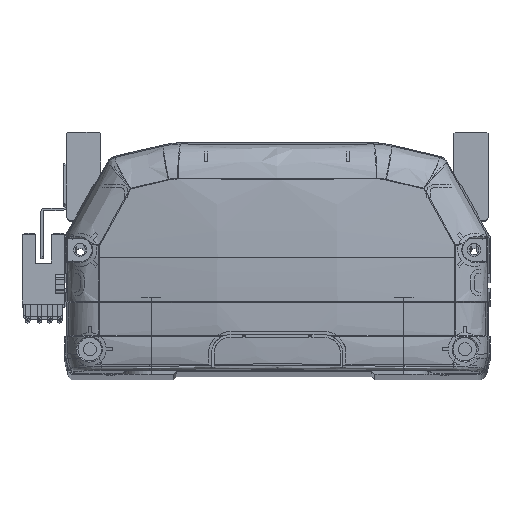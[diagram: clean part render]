
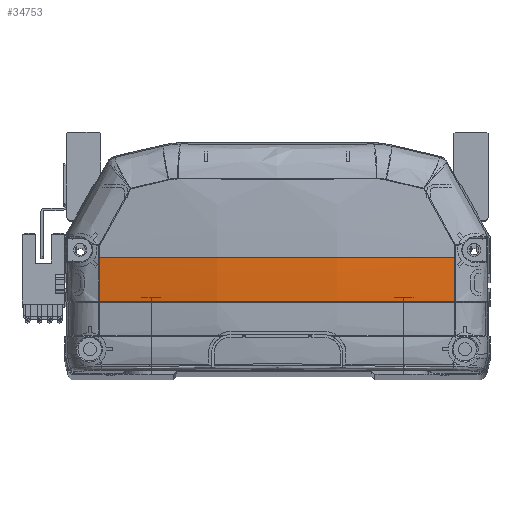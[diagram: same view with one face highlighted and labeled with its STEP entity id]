
A CAD part, top view. The second image highlights one B-rep face of the part: STEP entity #34753.
In plain terms, the highlighted free-form (B-spline) face has degree [3, 3] with [4, 4] control points.
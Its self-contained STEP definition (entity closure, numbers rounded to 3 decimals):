
#1463 = ORIENTED_EDGE ( 'NONE', *, *, #16261, .F. ) ;
#2425 = CARTESIAN_POINT ( 'NONE',  ( 4.761, 22.225, -9.537 ) ) ;
#2475 = CARTESIAN_POINT ( 'NONE',  ( -57.335, 22.148, -4.7 ) ) ;
#2813 =( BOUNDED_SURFACE ( )  B_SPLINE_SURFACE ( 3, 3, ( 
 ( #23044, #15562, #34158, #44599 ),
 ( #30332, #19526, #44918, #23192 ),
 ( #5163, #45874, #27152, #9112 ),
 ( #2475, #16195, #19992, #27803 ) ),
 .UNSPECIFIED., .F., .F., .F. ) 
 B_SPLINE_SURFACE_WITH_KNOTS ( ( 4, 4 ),
 ( 4, 4 ),
 ( 0., 1. ),
 ( 0., 1. ),
 .UNSPECIFIED. ) 
 GEOMETRIC_REPRESENTATION_ITEM ( )  RATIONAL_B_SPLINE_SURFACE ( (
 ( 1., 1., 1., 1.),
 ( 0.99, 0.99, 0.99, 0.99),
 ( 0.99, 0.99, 0.99, 0.99),
 ( 1., 1., 1., 1.) ) ) 
 REPRESENTATION_ITEM ( '' )  SURFACE ( )  );
#3049 = CARTESIAN_POINT ( 'NONE',  ( 2.357, 22.225, -9.562 ) ) ;
#3416 = CARTESIAN_POINT ( 'NONE',  ( -56.647, 36., -5.158 ) ) ;
#4324 = CARTESIAN_POINT ( 'NONE',  ( 56.647, 31.387, -5.158 ) ) ;
#5163 = CARTESIAN_POINT ( 'NONE',  ( -19.295, 21.828, -11.186 ) ) ;
#7612 = VERTEX_POINT ( 'NONE', #21606 ) ;
#8114 = EDGE_CURVE ( 'NONE', #19790, #34528, #14005, .T. ) ;
#8266 = CARTESIAN_POINT ( 'NONE',  ( 56.661, 22.225, -4.818 ) ) ;
#8464 = CARTESIAN_POINT ( 'NONE',  ( 56.661, 22.225, -4.818 ) ) ;
#9112 = CARTESIAN_POINT ( 'NONE',  ( -19.295, 36., -11.535 ) ) ;
#9532 = CARTESIAN_POINT ( 'NONE',  ( -19.28, 22.225, -9.565 ) ) ;
#9687 = CARTESIAN_POINT ( 'NONE',  ( -38.235, 22.225, -7.93 ) ) ;
#10578 = VERTEX_POINT ( 'NONE', #19322 ) ;
#11655 = AXIS2_PLACEMENT_3D ( 'NONE', #40837, #37340, #19217 ) ;
#14005 = B_SPLINE_CURVE_WITH_KNOTS ( 'NONE', 3,
 ( #8266, #15501, #4324, #40781 ),
 .UNSPECIFIED., .F., .F.,
 ( 4, 4 ),
 ( 0., 1. ),
 .UNSPECIFIED. ) ;
#15501 = CARTESIAN_POINT ( 'NONE',  ( 56.652, 26.806, -5.044 ) ) ;
#15562 = CARTESIAN_POINT ( 'NONE',  ( 57.335, 26.762, -4.928 ) ) ;
#16195 = CARTESIAN_POINT ( 'NONE',  ( -57.335, 26.762, -4.928 ) ) ;
#16261 = EDGE_CURVE ( 'NONE', #10578, #18714, #21212, .T. ) ;
#17392 = CARTESIAN_POINT ( 'NONE',  ( 56.661, 22.225, -4.818 ) ) ;
#17406 = CARTESIAN_POINT ( 'NONE',  ( -56.647, 36., -5.158 ) ) ;
#18058 = DIRECTION ( 'NONE',  ( 0., 0., -1. ) ) ;
#18714 = VERTEX_POINT ( 'NONE', #17406 ) ;
#19217 = DIRECTION ( 'NONE',  ( 0., 0., -1. ) ) ;
#19322 = CARTESIAN_POINT ( 'NONE',  ( 56.647, 36., -5.158 ) ) ;
#19526 = CARTESIAN_POINT ( 'NONE',  ( 19.295, 26.549, -11.419 ) ) ;
#19790 = VERTEX_POINT ( 'NONE', #8464 ) ;
#19992 = CARTESIAN_POINT ( 'NONE',  ( -57.335, 31.38, -5.042 ) ) ;
#21048 = CARTESIAN_POINT ( 'NONE',  ( 1.152, 22.225, -9.568 ) ) ;
#21212 = CIRCLE ( 'NONE', #11655, 340.733 ) ;
#21606 = CARTESIAN_POINT ( 'NONE',  ( -56.661, 22.225, -4.818 ) ) ;
#22051 = CIRCLE ( 'NONE', #27392, 6395.966 ) ;
#22510 = B_SPLINE_CURVE_WITH_KNOTS ( 'NONE', 3,
 ( #17392, #27909, #42787, #31392, #24559, #42166, #38867, #2425, #3049, #21048, #9532, #9687, #38720 ),
 .UNSPECIFIED., .F., .F.,
 ( 4, 2, 2, 1, 2, 2, 4 ),
 ( 0., 0.25, 0.375, 0.438, 0.469, 0.5, 1. ),
 .UNSPECIFIED. ) ;
#22783 = ORIENTED_EDGE ( 'NONE', *, *, #35016, .F. ) ;
#23044 = CARTESIAN_POINT ( 'NONE',  ( 57.335, 22.148, -4.7 ) ) ;
#23192 = CARTESIAN_POINT ( 'NONE',  ( 19.295, 36., -11.535 ) ) ;
#23423 = EDGE_CURVE ( 'NONE', #34528, #10578, #22051, .T. ) ;
#24559 = CARTESIAN_POINT ( 'NONE',  ( 19.121, 22.225, -9.064 ) ) ;
#25381 = CARTESIAN_POINT ( 'NONE',  ( -56.652, 26.814, -5.045 ) ) ;
#27152 = CARTESIAN_POINT ( 'NONE',  ( -19.295, 31.274, -11.535 ) ) ;
#27392 = AXIS2_PLACEMENT_3D ( 'NONE', #32227, #18058, #43767 ) ;
#27803 = CARTESIAN_POINT ( 'NONE',  ( -57.335, 36., -5.042 ) ) ;
#27909 = CARTESIAN_POINT ( 'NONE',  ( 47.432, 22.225, -6.377 ) ) ;
#30332 = CARTESIAN_POINT ( 'NONE',  ( 19.295, 21.828, -11.186 ) ) ;
#31248 = FACE_OUTER_BOUND ( 'NONE', #42577, .T. ) ;
#31392 = CARTESIAN_POINT ( 'NONE',  ( 23.877, 22.225, -8.763 ) ) ;
#31455 = ORIENTED_EDGE ( 'NONE', *, *, #8114, .F. ) ;
#32227 = CARTESIAN_POINT ( 'NONE',  ( 6452.613, 35.969, -5.158 ) ) ;
#32235 = CARTESIAN_POINT ( 'NONE',  ( -56.661, 22.225, -4.818 ) ) ;
#32718 = ORIENTED_EDGE ( 'NONE', *, *, #23423, .F. ) ;
#34158 = CARTESIAN_POINT ( 'NONE',  ( 57.335, 31.38, -5.042 ) ) ;
#34380 = ORIENTED_EDGE ( 'NONE', *, *, #42556, .T. ) ;
#34528 = VERTEX_POINT ( 'NONE', #43057 ) ;
#34753 = ADVANCED_FACE ( 'NONE', ( #31248 ), #2813, .T. ) ;
#35016 = EDGE_CURVE ( 'NONE', #18714, #7612, #44950, .T. ) ;
#37340 = DIRECTION ( 'NONE',  ( 0., 1., 0. ) ) ;
#38720 = CARTESIAN_POINT ( 'NONE',  ( -56.661, 22.225, -4.818 ) ) ;
#38867 = CARTESIAN_POINT ( 'NONE',  ( 8.363, 22.225, -9.48 ) ) ;
#39712 = CARTESIAN_POINT ( 'NONE',  ( -56.647, 31.405, -5.158 ) ) ;
#40781 = CARTESIAN_POINT ( 'NONE',  ( 56.647, 35.969, -5.158 ) ) ;
#40837 = CARTESIAN_POINT ( 'NONE',  ( 0., 36., 330.833 ) ) ;
#42166 = CARTESIAN_POINT ( 'NONE',  ( 11.954, 22.225, -9.367 ) ) ;
#42556 = EDGE_CURVE ( 'NONE', #19790, #7612, #22510, .T. ) ;
#42577 = EDGE_LOOP ( 'NONE', ( #1463, #32718, #31455, #34380, #22783 ) ) ;
#42787 = CARTESIAN_POINT ( 'NONE',  ( 38.071, 22.225, -7.566 ) ) ;
#43057 = CARTESIAN_POINT ( 'NONE',  ( 56.647, 35.969, -5.158 ) ) ;
#43767 = DIRECTION ( 'NONE',  ( -1., 0., 0. ) ) ;
#44599 = CARTESIAN_POINT ( 'NONE',  ( 57.335, 36., -5.042 ) ) ;
#44918 = CARTESIAN_POINT ( 'NONE',  ( 19.295, 31.274, -11.535 ) ) ;
#44950 = B_SPLINE_CURVE_WITH_KNOTS ( 'NONE', 3,
 ( #3416, #39712, #25381, #32235 ),
 .UNSPECIFIED., .F., .F.,
 ( 4, 4 ),
 ( 0., 1. ),
 .UNSPECIFIED. ) ;
#45874 = CARTESIAN_POINT ( 'NONE',  ( -19.295, 26.549, -11.419 ) ) ;
